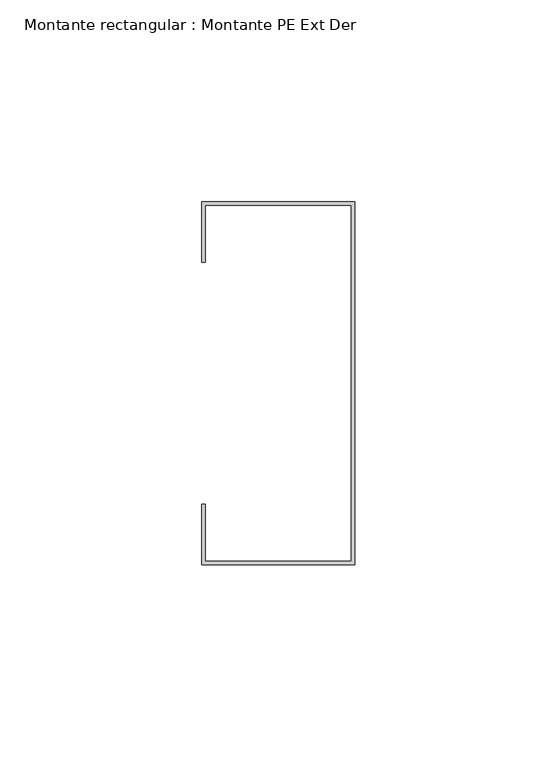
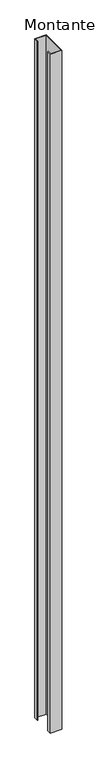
"""IFC4 building model written with IfcOpenShell, lengths in millimetres: member geometry, Montante rectangular : Montante PE Ext Der."""

from ifc_helpers import new_model, si_unit, frame, origin, place, context, project, spatial, polyline, outline, extrude, source, transform, mapped, element, save


def montante_rectangular_montante_pe_ext_der_0bfeced0(model_context):
    return source(origin(), model_context, "Body", "SweptSolid", [
        extrude(outline(polyline([(-38.0, 27.5), (0.0, 27.5), (0.0, -62.5), (-38.0, -62.5), (-38.0, -47.5), (-37.15, -47.5), (-37.15, -61.65), (-0.85, -61.65), (-0.85, 26.65), (-37.15, 26.65), (-37.15, 12.5), (-38.0, 12.5), (-38.0, 27.5)])), frame((0.0, 0.0, -2400.0), z_axis=(0.0, 0.0, 1.0), x_axis=(1.0, 0.0, 0.0)), (0.0, 0.0, 1.0), 2400.0),
    ])


if __name__ == "__main__":
    model = new_model("IFC4")
    model_context = context("Model", 3, world=origin())
    ifc_project = project(units=[si_unit("LENGTHUNIT", "METRE", prefix="MILLI")], contexts=[model_context])
    site = spatial("IfcSite", under=ifc_project)
    building = spatial("IfcBuilding", under=site)
    placement = place(None, origin())
    montante_rectangular_montante_pe_ext_der_shape = montante_rectangular_montante_pe_ext_der_0bfeced0(model_context)
    element("IfcMember", 1, ObjectType="Montante rectangular : Montante PE Ext Der", at=placement, inside=building, context=model_context, shape_type="MappedRepresentation", body=[
        mapped(montante_rectangular_montante_pe_ext_der_shape, transform((0.0, 0.0, 0.0), x_axis=(1.0, 0.0, 0.0), y_axis=(0.0, 1.0, 0.0), z_axis=(0.0, 0.0, 1.0))),
    ])
    save(model, "model.ifc")
